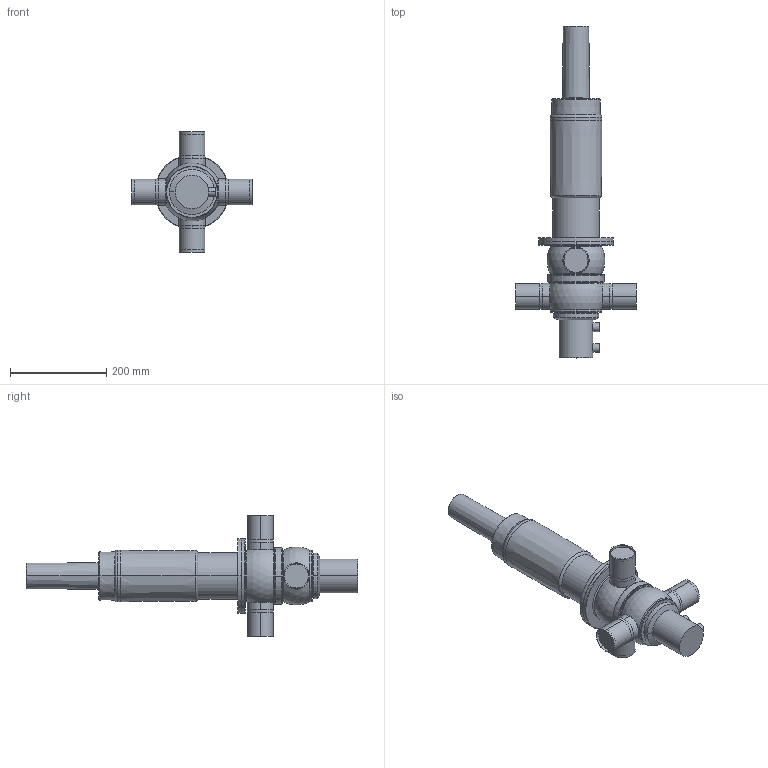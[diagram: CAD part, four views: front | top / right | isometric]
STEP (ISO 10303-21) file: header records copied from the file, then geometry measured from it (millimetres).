
FILE_DESCRIPTION(('Creo Elements/Direct Modeling STEP Export'),'2;1');
FILE_NAME('D44-50_prox..stp','2019-09-03T15:47:25',(''),(''),'PTC Creo Elements/Direct Modeling STEP processor for AP214 (Solid Model)','PTC Creo Elements/Direct Modeling 19.0B 21-Mar-2015 (C) Parametric Technology GmbH','');
FILE_SCHEMA(('AUTOMOTIVE_DESIGN { 1 0 10303 214 1 1 1 1 }'));
Length unit declared in the file: millimetre
Products named in the file (5): D4_Prox._holder.; actuator_D4-100_yoke; drain_pipe-62; housing_D44-50; D44-50_prox.
Assembly tree (4 placements, depth 2):
  D44-50_prox.
    housing_D44-50
    drain_pipe-62
    actuator_D4-100_yoke
    D4_Prox._holder.
Bounding box: 250 x 689.35 x 250 mm (x, y, z)
Volume: 5554811.6 mm3; surface area: 367715.5 mm2
Topology: 4 solids, 4 shells, 144 faces, 311 edges, 189 vertices
Faces by surface type: cylinder 58, torus 32, plane 28, cone 22, sphere 4
Entity records: 4494 total; most frequent: CARTESIAN_POINT 1485, ORIENTED_EDGE 622, DIRECTION 606, EDGE_CURVE 311, AXIS2_PLACEMENT_3D 263, VERTEX_POINT 189, EDGE_LOOP 158, FACE_OUTER_BOUND 144
